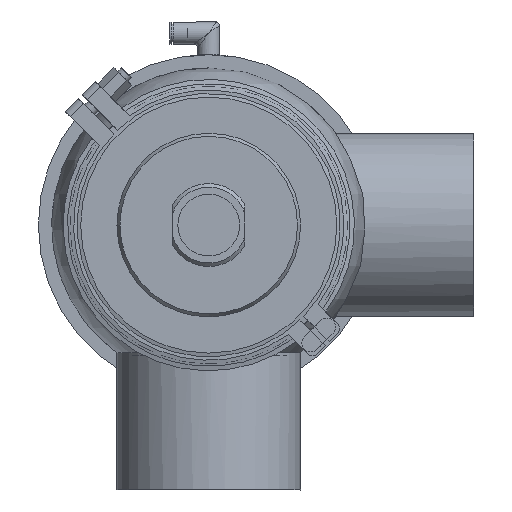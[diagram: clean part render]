
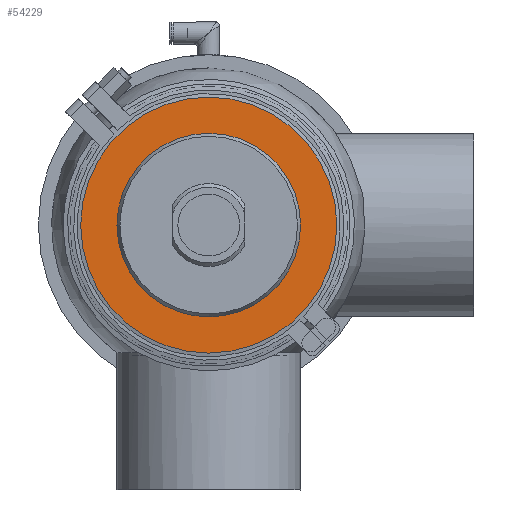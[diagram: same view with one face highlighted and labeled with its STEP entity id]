
A CAD part, front view. The second image highlights one B-rep face of the part: STEP entity #54229.
In plain terms, the highlighted planar face has unit normal (0, -1, 0).
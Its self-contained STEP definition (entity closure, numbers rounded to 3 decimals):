
#3046 = AXIS2_PLACEMENT_3D ( 'NONE', #3969, #26441, #51678 ) ;
#3191 = EDGE_LOOP ( 'NONE', ( #10302 ) ) ;
#3969 = CARTESIAN_POINT ( 'NONE',  ( 0., -13., 0. ) ) ;
#5726 = EDGE_CURVE ( 'NONE', #34905, #34905, #20116, .T. ) ;
#7652 = ORIENTED_EDGE ( 'NONE', *, *, #14549, .F. ) ;
#9015 = VERTEX_POINT ( 'NONE', #9345 ) ;
#9345 = CARTESIAN_POINT ( 'NONE',  ( 0., -13., 72.5 ) ) ;
#10302 = ORIENTED_EDGE ( 'NONE', *, *, #5726, .T. ) ;
#14549 = EDGE_CURVE ( 'NONE', #9015, #9015, #58063, .T. ) ;
#16479 = CARTESIAN_POINT ( 'NONE',  ( -72.5, -13., 0. ) ) ;
#16566 = AXIS2_PLACEMENT_3D ( 'NONE', #43281, #17996, #27784 ) ;
#17996 = DIRECTION ( 'NONE',  ( 0., 1., 0. ) ) ;
#20116 = CIRCLE ( 'NONE', #3046, 52. ) ;
#26441 = DIRECTION ( 'NONE',  ( 0., 1., 0. ) ) ;
#27784 = DIRECTION ( 'NONE',  ( 0., 0., 1. ) ) ;
#34905 = VERTEX_POINT ( 'NONE', #59935 ) ;
#36350 = DIRECTION ( 'NONE',  ( 0., 0., -1. ) ) ;
#43281 = CARTESIAN_POINT ( 'NONE',  ( 0., -13., 0. ) ) ;
#46187 = FACE_OUTER_BOUND ( 'NONE', #50223, .T. ) ;
#48391 = AXIS2_PLACEMENT_3D ( 'NONE', #16479, #50633, #36350 ) ;
#50223 = EDGE_LOOP ( 'NONE', ( #7652 ) ) ;
#50633 = DIRECTION ( 'NONE',  ( 0., -1., 0. ) ) ;
#51678 = DIRECTION ( 'NONE',  ( 0., 0., 1. ) ) ;
#54229 = ADVANCED_FACE ( 'NONE', ( #56348, #46187 ), #59839, .T. ) ;
#56348 = FACE_BOUND ( 'NONE', #3191, .T. ) ;
#58063 = CIRCLE ( 'NONE', #16566, 72.5 ) ;
#59839 = PLANE ( 'NONE',  #48391 ) ;
#59935 = CARTESIAN_POINT ( 'NONE',  ( 0., -13., 52. ) ) ;
